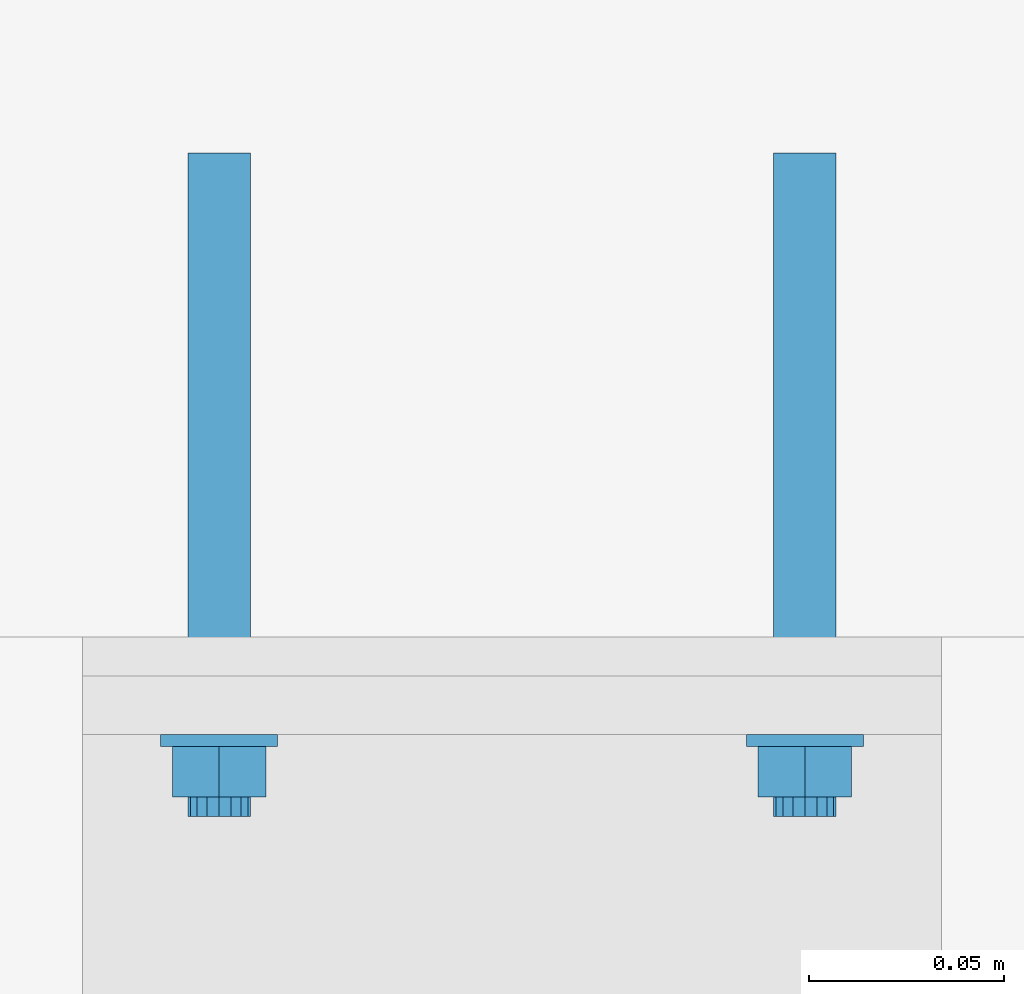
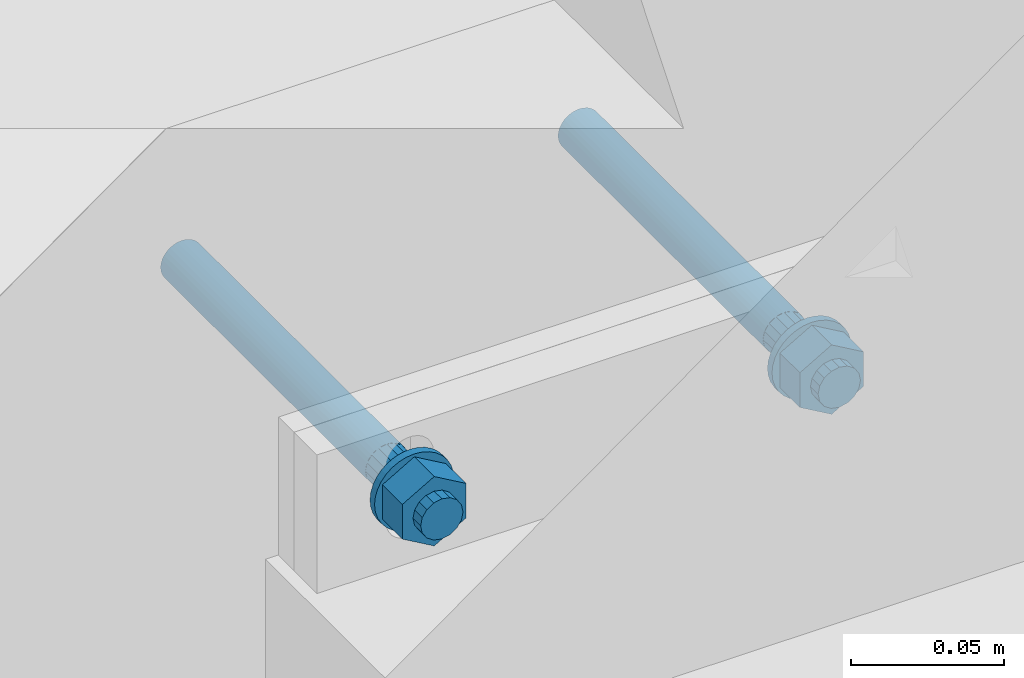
# One storey, part 36 of 145: 1 mechanical fastener.
"""IFC2X3 building model written with IfcOpenShell, lengths in millimetres."""

from ifc_helpers import new_model, entity, si_unit, converted_unit, origin_with_axes, place, context, project, spatial, faceted_brep, element, save


model = new_model("IFC2X3")

# Units and contexts
model_context = context("Model", 3, precision=1e-09, world=origin_with_axes())
ifc_project = project(units=[si_unit("LENGTHUNIT", "METRE", prefix="MILLI"), si_unit("AREAUNIT", "SQUARE_METRE"), si_unit("VOLUMEUNIT", "CUBIC_METRE"), converted_unit("PLANEANGLEUNIT", "DEGREE", entity("IfcPlaneAngleMeasure", 0.01745329), si_unit("PLANEANGLEUNIT", "RADIAN"), dimensions=[0, 0, 0, 0, 0, 0, 0])], contexts=[model_context])

# Site, building, storey
site_placement = place(None, origin_with_axes())
site = spatial("IfcSite", under=ifc_project, at=site_placement, Name="BZ1 Grund- und Mittelschule 85716 Unterschlei?heim", CompositionType="ELEMENT")
building_placement = place(site_placement, origin_with_axes())
building = spatial("IfcBuilding", under=site, at=building_placement, Name="Struktur 1", CompositionType="ELEMENT")
storey_placement = place(building_placement, origin_with_axes())
storey = spatial("IfcBuildingStorey", under=building, at=storey_placement, Name="Default Storey", CompositionType="ELEMENT", Elevation=0.0)

# Mechanical fastener
mechanical_fastener_placement = place(None, origin_with_axes())
element("IfcMechanicalFastener", 1, at=mechanical_fastener_placement, inside=storey, ObjectType="-", NominalDiameter=16.0, NominalLength=170.0, context=model_context, shape_type="Brep", body=[
    faceted_brep([(17130.84472732, -28.0, 3094.9990004), (17130.84472732, -25.0, 3094.9990004), (17131.132948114, -25.0, 3092.07264557), (17131.132948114, -28.0, 3092.07264557), (17131.986534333, -25.0, 3089.258748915), (17131.986534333, -28.0, 3089.258748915), (17133.372683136, -25.0, 3086.665446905), (17133.372683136, -28.0, 3086.665446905), (17135.238125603, -25.0, 3084.392398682), (17135.238125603, -28.0, 3084.392398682), (17137.511173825, -25.0, 3082.526956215), (17137.511173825, -28.0, 3082.526956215), (17140.104475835, -25.0, 3081.140807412), (17140.104475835, -28.0, 3081.140807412), (17142.91837249, -25.0, 3080.287221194), (17142.91837249, -28.0, 3080.287221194), (17145.84472732, -25.0, 3079.9990004), (17145.84472732, -28.0, 3079.9990004), (17148.771082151, -25.0, 3080.287221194), (17148.771082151, -28.0, 3080.287221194), (17151.584978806, -25.0, 3081.140807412), (17151.584978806, -28.0, 3081.140807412), (17154.178280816, -25.0, 3082.526956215), (17154.178280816, -28.0, 3082.526956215), (17156.451329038, -25.0, 3084.392398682), (17156.451329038, -28.0, 3084.392398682), (17158.316771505, -25.0, 3086.665446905), (17158.316771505, -28.0, 3086.665446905), (17159.702920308, -25.0, 3089.258748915), (17159.702920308, -28.0, 3089.258748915), (17160.556506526, -25.0, 3092.07264557), (17160.556506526, -28.0, 3092.07264557), (17160.84472732, -25.0, 3094.9990004), (17160.84472732, -28.0, 3094.9990004), (17160.556506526, -25.0, 3097.92535523), (17160.556506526, -28.0, 3097.92535523), (17159.702920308, -25.0, 3100.739251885), (17159.702920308, -28.0, 3100.739251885), (17158.316771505, -25.0, 3103.332553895), (17158.316771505, -28.0, 3103.332553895), (17156.451329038, -25.0, 3105.605602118), (17156.451329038, -28.0, 3105.605602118), (17154.178280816, -25.0, 3107.471044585), (17154.178280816, -28.0, 3107.471044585), (17151.584978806, -25.0, 3108.857193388), (17151.584978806, -28.0, 3108.857193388), (17148.771082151, -25.0, 3109.710779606), (17148.771082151, -28.0, 3109.710779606), (17145.84472732, -25.0, 3109.9990004), (17145.84472732, -28.0, 3109.9990004), (17142.91837249, -25.0, 3109.710779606), (17142.91837249, -28.0, 3109.710779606), (17140.104475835, -25.0, 3108.857193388), (17140.104475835, -28.0, 3108.857193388), (17137.511173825, -25.0, 3107.471044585), (17137.511173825, -28.0, 3107.471044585), (17135.238125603, -25.0, 3105.605602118), (17135.238125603, -28.0, 3105.605602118), (17133.372683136, -25.0, 3103.332553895), (17133.372683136, -28.0, 3103.332553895), (17131.986534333, -25.0, 3100.739251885), (17131.986534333, -28.0, 3100.739251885), (17131.132948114, -25.0, 3097.92535523), (17131.132948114, -28.0, 3097.92535523)], [[[0, 1, 2, 3]], [[3, 2, 4, 5]], [[5, 4, 6, 7]], [[7, 6, 8, 9]], [[9, 8, 10, 11]], [[11, 10, 12, 13]], [[13, 12, 14, 15]], [[15, 14, 16, 17]], [[17, 16, 18, 19]], [[19, 18, 20, 21]], [[21, 20, 22, 23]], [[23, 22, 24, 25]], [[25, 24, 26, 27]], [[27, 26, 28, 29]], [[29, 28, 30, 31]], [[31, 30, 32, 33]], [[33, 32, 34, 35]], [[35, 34, 36, 37]], [[37, 36, 38, 39]], [[39, 38, 40, 41]], [[41, 40, 42, 43]], [[43, 42, 44, 45]], [[45, 44, 46, 47]], [[47, 46, 48, 49]], [[49, 48, 50, 51]], [[51, 50, 52, 53]], [[53, 52, 54, 55]], [[55, 54, 56, 57]], [[57, 56, 58, 59]], [[59, 58, 60, 61]], [[61, 60, 62, 63]], [[63, 62, 1, 0]], [[0, 3, 5, 7, 9, 11, 13, 15, 17, 19, 21, 23, 25, 27, 29, 31, 33, 35, 37, 39, 41, 43, 45, 47, 49, 51, 53, 55, 57, 59, 61, 63]], [[1, 62, 60, 58, 56, 54, 52, 50, 48, 46, 44, 42, 40, 38, 36, 34, 32, 30, 28, 26, 24, 22, 20, 18, 16, 14, 12, 10, 8, 6, 4, 2]]]),
    faceted_brep([(16980.84472732, -28.0, 3094.9990004), (16980.84472732, -25.0, 3094.9990004), (16981.132948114, -25.0, 3092.07264557), (16981.132948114, -28.0, 3092.07264557), (16981.986534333, -25.0, 3089.258748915), (16981.986534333, -28.0, 3089.258748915), (16983.372683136, -25.0, 3086.665446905), (16983.372683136, -28.0, 3086.665446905), (16985.238125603, -25.0, 3084.392398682), (16985.238125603, -28.0, 3084.392398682), (16987.511173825, -25.0, 3082.526956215), (16987.511173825, -28.0, 3082.526956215), (16990.104475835, -25.0, 3081.140807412), (16990.104475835, -28.0, 3081.140807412), (16992.91837249, -25.0, 3080.287221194), (16992.91837249, -28.0, 3080.287221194), (16995.84472732, -25.0, 3079.9990004), (16995.84472732, -28.0, 3079.9990004), (16998.771082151, -25.0, 3080.287221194), (16998.771082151, -28.0, 3080.287221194), (17001.584978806, -25.0, 3081.140807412), (17001.584978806, -28.0, 3081.140807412), (17004.178280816, -25.0, 3082.526956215), (17004.178280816, -28.0, 3082.526956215), (17006.451329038, -25.0, 3084.392398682), (17006.451329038, -28.0, 3084.392398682), (17008.316771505, -25.0, 3086.665446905), (17008.316771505, -28.0, 3086.665446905), (17009.702920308, -25.0, 3089.258748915), (17009.702920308, -28.0, 3089.258748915), (17010.556506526, -25.0, 3092.07264557), (17010.556506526, -28.0, 3092.07264557), (17010.84472732, -25.0, 3094.9990004), (17010.84472732, -28.0, 3094.9990004), (17010.556506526, -25.0, 3097.92535523), (17010.556506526, -28.0, 3097.92535523), (17009.702920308, -25.0, 3100.739251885), (17009.702920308, -28.0, 3100.739251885), (17008.316771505, -25.0, 3103.332553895), (17008.316771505, -28.0, 3103.332553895), (17006.451329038, -25.0, 3105.605602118), (17006.451329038, -28.0, 3105.605602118), (17004.178280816, -25.0, 3107.471044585), (17004.178280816, -28.0, 3107.471044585), (17001.584978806, -25.0, 3108.857193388), (17001.584978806, -28.0, 3108.857193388), (16998.771082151, -25.0, 3109.710779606), (16998.771082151, -28.0, 3109.710779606), (16995.84472732, -25.0, 3109.9990004), (16995.84472732, -28.0, 3109.9990004), (16992.91837249, -25.0, 3109.710779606), (16992.91837249, -28.0, 3109.710779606), (16990.104475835, -25.0, 3108.857193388), (16990.104475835, -28.0, 3108.857193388), (16987.511173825, -25.0, 3107.471044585), (16987.511173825, -28.0, 3107.471044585), (16985.238125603, -25.0, 3105.605602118), (16985.238125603, -28.0, 3105.605602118), (16983.372683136, -25.0, 3103.332553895), (16983.372683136, -28.0, 3103.332553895), (16981.986534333, -25.0, 3100.739251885), (16981.986534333, -28.0, 3100.739251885), (16981.132948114, -25.0, 3097.92535523), (16981.132948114, -28.0, 3097.92535523)], [[[0, 1, 2, 3]], [[3, 2, 4, 5]], [[5, 4, 6, 7]], [[7, 6, 8, 9]], [[9, 8, 10, 11]], [[11, 10, 12, 13]], [[13, 12, 14, 15]], [[15, 14, 16, 17]], [[17, 16, 18, 19]], [[19, 18, 20, 21]], [[21, 20, 22, 23]], [[23, 22, 24, 25]], [[25, 24, 26, 27]], [[27, 26, 28, 29]], [[29, 28, 30, 31]], [[31, 30, 32, 33]], [[33, 32, 34, 35]], [[35, 34, 36, 37]], [[37, 36, 38, 39]], [[39, 38, 40, 41]], [[41, 40, 42, 43]], [[43, 42, 44, 45]], [[45, 44, 46, 47]], [[47, 46, 48, 49]], [[49, 48, 50, 51]], [[51, 50, 52, 53]], [[53, 52, 54, 55]], [[55, 54, 56, 57]], [[57, 56, 58, 59]], [[59, 58, 60, 61]], [[61, 60, 62, 63]], [[63, 62, 1, 0]], [[0, 3, 5, 7, 9, 11, 13, 15, 17, 19, 21, 23, 25, 27, 29, 31, 33, 35, 37, 39, 41, 43, 45, 47, 49, 51, 53, 55, 57, 59, 61, 63]], [[1, 62, 60, 58, 56, 54, 52, 50, 48, 46, 44, 42, 40, 38, 36, 34, 32, 30, 28, 26, 24, 22, 20, 18, 16, 14, 12, 10, 8, 6, 4, 2]]]),
    faceted_brep([(17157.839179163, -28.0, 3088.0740004), (17157.839179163, -41.0, 3088.0740004), (17145.84472732, -41.0, 3081.1490004), (17145.84472732, -28.0, 3081.1490004), (17133.850275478, -41.0, 3088.0740004), (17133.850275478, -28.0, 3088.0740004), (17133.850275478, -41.0, 3101.9240004), (17133.850275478, -28.0, 3101.9240004), (17145.84472732, -41.0, 3108.8490004), (17145.84472732, -28.0, 3108.8490004), (17157.839179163, -41.0, 3101.9240004), (17157.839179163, -28.0, 3101.9240004)], [[[0, 1, 2, 3]], [[3, 2, 4, 5]], [[5, 4, 6, 7]], [[7, 6, 8, 9]], [[9, 8, 10, 11]], [[11, 10, 1, 0]], [[4, 2, 1, 10, 8, 6]], [[0, 3, 5, 7, 9, 11]]]),
    faceted_brep([(17007.839179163, -28.0, 3088.0740004), (17007.839179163, -41.0, 3088.0740004), (16995.84472732, -41.0, 3081.1490004), (16995.84472732, -28.0, 3081.1490004), (16983.850275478, -41.0, 3088.0740004), (16983.850275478, -28.0, 3088.0740004), (16983.850275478, -41.0, 3101.9240004), (16983.850275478, -28.0, 3101.9240004), (16995.84472732, -41.0, 3108.8490004), (16995.84472732, -28.0, 3108.8490004), (17007.839179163, -41.0, 3101.9240004), (17007.839179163, -28.0, 3101.9240004)], [[[0, 1, 2, 3]], [[3, 2, 4, 5]], [[5, 4, 6, 7]], [[7, 6, 8, 9]], [[9, 8, 10, 11]], [[11, 10, 1, 0]], [[4, 2, 1, 10, 8, 6]], [[0, 3, 5, 7, 9, 11]]]),
    faceted_brep([(17137.84472732, -46.0, 3094.9990004), (17137.84472732, -41.0, 3094.9990004), (17138.45369106, -41.0, 3091.937532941), (17138.45369106, -46.0, 3091.937532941), (17140.187873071, -41.0, 3089.342146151), (17140.187873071, -46.0, 3089.342146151), (17142.783259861, -41.0, 3087.60796414), (17142.783259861, -46.0, 3087.60796414), (17145.84472732, -41.0, 3086.9990004), (17145.84472732, -46.0, 3086.9990004), (17148.906194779, -41.0, 3087.60796414), (17148.906194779, -46.0, 3087.60796414), (17151.50158157, -41.0, 3089.342146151), (17151.50158157, -46.0, 3089.342146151), (17153.23576358, -41.0, 3091.937532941), (17153.23576358, -46.0, 3091.937532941), (17153.84472732, -41.0, 3094.9990004), (17153.84472732, -46.0, 3094.9990004), (17153.23576358, -41.0, 3098.060467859), (17153.23576358, -46.0, 3098.060467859), (17151.50158157, -41.0, 3100.655854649), (17151.50158157, -46.0, 3100.655854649), (17148.906194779, -41.0, 3102.39003666), (17148.906194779, -46.0, 3102.39003666), (17145.84472732, -41.0, 3102.9990004), (17145.84472732, -46.0, 3102.9990004), (17142.783259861, -41.0, 3102.39003666), (17142.783259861, -46.0, 3102.39003666), (17140.187873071, -41.0, 3100.655854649), (17140.187873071, -46.0, 3100.655854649), (17138.45369106, -41.0, 3098.060467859), (17138.45369106, -46.0, 3098.060467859)], [[[0, 1, 2, 3]], [[3, 2, 4, 5]], [[5, 4, 6, 7]], [[7, 6, 8, 9]], [[9, 8, 10, 11]], [[11, 10, 12, 13]], [[13, 12, 14, 15]], [[15, 14, 16, 17]], [[17, 16, 18, 19]], [[19, 18, 20, 21]], [[21, 20, 22, 23]], [[23, 22, 24, 25]], [[25, 24, 26, 27]], [[27, 26, 28, 29]], [[29, 28, 30, 31]], [[31, 30, 1, 0]], [[0, 3, 5, 7, 9, 11, 13, 15, 17, 19, 21, 23, 25, 27, 29, 31]], [[1, 30, 28, 26, 24, 22, 20, 18, 16, 14, 12, 10, 8, 6, 4, 2]]]),
    faceted_brep([(16987.84472732, -46.0, 3094.9990004), (16987.84472732, -41.0, 3094.9990004), (16988.45369106, -41.0, 3091.937532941), (16988.45369106, -46.0, 3091.937532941), (16990.187873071, -41.0, 3089.342146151), (16990.187873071, -46.0, 3089.342146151), (16992.783259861, -41.0, 3087.60796414), (16992.783259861, -46.0, 3087.60796414), (16995.84472732, -41.0, 3086.9990004), (16995.84472732, -46.0, 3086.9990004), (16998.906194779, -41.0, 3087.60796414), (16998.906194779, -46.0, 3087.60796414), (17001.50158157, -41.0, 3089.342146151), (17001.50158157, -46.0, 3089.342146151), (17003.23576358, -41.0, 3091.937532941), (17003.23576358, -46.0, 3091.937532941), (17003.84472732, -41.0, 3094.9990004), (17003.84472732, -46.0, 3094.9990004), (17003.23576358, -41.0, 3098.060467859), (17003.23576358, -46.0, 3098.060467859), (17001.50158157, -41.0, 3100.655854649), (17001.50158157, -46.0, 3100.655854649), (16998.906194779, -41.0, 3102.39003666), (16998.906194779, -46.0, 3102.39003666), (16995.84472732, -41.0, 3102.9990004), (16995.84472732, -46.0, 3102.9990004), (16992.783259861, -41.0, 3102.39003666), (16992.783259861, -46.0, 3102.39003666), (16990.187873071, -41.0, 3100.655854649), (16990.187873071, -46.0, 3100.655854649), (16988.45369106, -41.0, 3098.060467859), (16988.45369106, -46.0, 3098.060467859)], [[[0, 1, 2, 3]], [[3, 2, 4, 5]], [[5, 4, 6, 7]], [[7, 6, 8, 9]], [[9, 8, 10, 11]], [[11, 10, 12, 13]], [[13, 12, 14, 15]], [[15, 14, 16, 17]], [[17, 16, 18, 19]], [[19, 18, 20, 21]], [[21, 20, 22, 23]], [[23, 22, 24, 25]], [[25, 24, 26, 27]], [[27, 26, 28, 29]], [[29, 28, 30, 31]], [[31, 30, 1, 0]], [[0, 3, 5, 7, 9, 11, 13, 15, 17, 19, 21, 23, 25, 27, 29, 31]], [[1, 30, 28, 26, 24, 22, 20, 18, 16, 14, 12, 10, 8, 6, 4, 2]]]),
    faceted_brep([(17137.84472732, -25.0, 3094.9990004), (17137.84472732, -10.0, 3094.9990004), (17138.45369106, -10.0, 3091.937532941), (17138.45369106, -25.0, 3091.937532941), (17140.187873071, -10.0, 3089.342146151), (17140.187873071, -25.0, 3089.342146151), (17142.783259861, -10.0, 3087.60796414), (17142.783259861, -25.0, 3087.60796414), (17145.84472732, -10.0, 3086.9990004), (17145.84472732, -25.0, 3086.9990004), (17148.906194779, -10.0, 3087.60796414), (17148.906194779, -25.0, 3087.60796414), (17151.50158157, -10.0, 3089.342146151), (17151.50158157, -25.0, 3089.342146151), (17153.23576358, -10.0, 3091.937532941), (17153.23576358, -25.0, 3091.937532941), (17153.84472732, -10.0, 3094.9990004), (17153.84472732, -25.0, 3094.9990004), (17153.23576358, -10.0, 3098.060467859), (17153.23576358, -25.0, 3098.060467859), (17151.50158157, -10.0, 3100.655854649), (17151.50158157, -25.0, 3100.655854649), (17148.906194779, -10.0, 3102.39003666), (17148.906194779, -25.0, 3102.39003666), (17145.84472732, -10.0, 3102.9990004), (17145.84472732, -25.0, 3102.9990004), (17142.783259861, -10.0, 3102.39003666), (17142.783259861, -25.0, 3102.39003666), (17140.187873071, -10.0, 3100.655854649), (17140.187873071, -25.0, 3100.655854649), (17138.45369106, -10.0, 3098.060467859), (17138.45369106, -25.0, 3098.060467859)], [[[0, 1, 2, 3]], [[3, 2, 4, 5]], [[5, 4, 6, 7]], [[7, 6, 8, 9]], [[9, 8, 10, 11]], [[11, 10, 12, 13]], [[13, 12, 14, 15]], [[15, 14, 16, 17]], [[17, 16, 18, 19]], [[19, 18, 20, 21]], [[21, 20, 22, 23]], [[23, 22, 24, 25]], [[25, 24, 26, 27]], [[27, 26, 28, 29]], [[29, 28, 30, 31]], [[31, 30, 1, 0]], [[0, 3, 5, 7, 9, 11, 13, 15, 17, 19, 21, 23, 25, 27, 29, 31]], [[1, 30, 28, 26, 24, 22, 20, 18, 16, 14, 12, 10, 8, 6, 4, 2]]]),
    faceted_brep([(16987.84472732, -25.0, 3094.9990004), (16987.84472732, -10.0, 3094.9990004), (16988.45369106, -10.0, 3091.937532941), (16988.45369106, -25.0, 3091.937532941), (16990.187873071, -10.0, 3089.342146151), (16990.187873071, -25.0, 3089.342146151), (16992.783259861, -10.0, 3087.60796414), (16992.783259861, -25.0, 3087.60796414), (16995.84472732, -10.0, 3086.9990004), (16995.84472732, -25.0, 3086.9990004), (16998.906194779, -10.0, 3087.60796414), (16998.906194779, -25.0, 3087.60796414), (17001.50158157, -10.0, 3089.342146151), (17001.50158157, -25.0, 3089.342146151), (17003.23576358, -10.0, 3091.937532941), (17003.23576358, -25.0, 3091.937532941), (17003.84472732, -10.0, 3094.9990004), (17003.84472732, -25.0, 3094.9990004), (17003.23576358, -10.0, 3098.060467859), (17003.23576358, -25.0, 3098.060467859), (17001.50158157, -10.0, 3100.655854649), (17001.50158157, -25.0, 3100.655854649), (16998.906194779, -10.0, 3102.39003666), (16998.906194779, -25.0, 3102.39003666), (16995.84472732, -10.0, 3102.9990004), (16995.84472732, -25.0, 3102.9990004), (16992.783259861, -10.0, 3102.39003666), (16992.783259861, -25.0, 3102.39003666), (16990.187873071, -10.0, 3100.655854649), (16990.187873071, -25.0, 3100.655854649), (16988.45369106, -10.0, 3098.060467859), (16988.45369106, -25.0, 3098.060467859)], [[[0, 1, 2, 3]], [[3, 2, 4, 5]], [[5, 4, 6, 7]], [[7, 6, 8, 9]], [[9, 8, 10, 11]], [[11, 10, 12, 13]], [[13, 12, 14, 15]], [[15, 14, 16, 17]], [[17, 16, 18, 19]], [[19, 18, 20, 21]], [[21, 20, 22, 23]], [[23, 22, 24, 25]], [[25, 24, 26, 27]], [[27, 26, 28, 29]], [[29, 28, 30, 31]], [[31, 30, 1, 0]], [[0, 3, 5, 7, 9, 11, 13, 15, 17, 19, 21, 23, 25, 27, 29, 31]], [[1, 30, 28, 26, 24, 22, 20, 18, 16, 14, 12, 10, 8, 6, 4, 2]]]),
    faceted_brep([(17137.84472732, -10.0, 3094.9990004), (17137.84472732, 124.0, 3094.9990004), (17137.998445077, 124.0, 3093.438277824), (17137.998445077, -10.0, 3093.438277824), (17138.45369106, 124.0, 3091.937532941), (17138.45369106, -10.0, 3091.937532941), (17139.192970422, 124.0, 3090.554438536), (17139.192970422, -10.0, 3090.554438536), (17140.187873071, 124.0, 3089.342146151), (17140.187873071, -10.0, 3089.342146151), (17141.400165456, 124.0, 3088.347243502), (17141.400165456, -10.0, 3088.347243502), (17142.783259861, 124.0, 3087.60796414), (17142.783259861, -10.0, 3087.60796414), (17144.284004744, 124.0, 3087.152718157), (17144.284004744, -10.0, 3087.152718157), (17145.84472732, 124.0, 3086.9990004), (17145.84472732, -10.0, 3086.9990004), (17147.405449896, 124.0, 3087.152718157), (17147.405449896, -10.0, 3087.152718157), (17148.906194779, 124.0, 3087.60796414), (17148.906194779, -10.0, 3087.60796414), (17150.289289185, 124.0, 3088.347243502), (17150.289289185, -10.0, 3088.347243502), (17151.50158157, 124.0, 3089.342146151), (17151.50158157, -10.0, 3089.342146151), (17152.496484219, 124.0, 3090.554438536), (17152.496484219, -10.0, 3090.554438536), (17153.23576358, 124.0, 3091.937532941), (17153.23576358, -10.0, 3091.937532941), (17153.691009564, 124.0, 3093.438277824), (17153.691009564, -10.0, 3093.438277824), (17153.84472732, 124.0, 3094.9990004), (17153.84472732, -10.0, 3094.9990004), (17153.691009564, 124.0, 3096.559722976), (17153.691009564, -10.0, 3096.559722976), (17153.23576358, 124.0, 3098.060467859), (17153.23576358, -10.0, 3098.060467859), (17152.496484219, 124.0, 3099.443562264), (17152.496484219, -10.0, 3099.443562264), (17151.50158157, 124.0, 3100.655854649), (17151.50158157, -10.0, 3100.655854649), (17150.289289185, 124.0, 3101.650757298), (17150.289289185, -10.0, 3101.650757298), (17148.906194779, 124.0, 3102.39003666), (17148.906194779, -10.0, 3102.39003666), (17147.405449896, 124.0, 3102.845282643), (17147.405449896, -10.0, 3102.845282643), (17145.84472732, 124.0, 3102.9990004), (17145.84472732, -10.0, 3102.9990004), (17144.284004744, 124.0, 3102.845282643), (17144.284004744, -10.0, 3102.845282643), (17142.783259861, 124.0, 3102.39003666), (17142.783259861, -10.0, 3102.39003666), (17141.400165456, 124.0, 3101.650757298), (17141.400165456, -10.0, 3101.650757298), (17140.187873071, 124.0, 3100.655854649), (17140.187873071, -10.0, 3100.655854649), (17139.192970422, 124.0, 3099.443562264), (17139.192970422, -10.0, 3099.443562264), (17138.45369106, 124.0, 3098.060467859), (17138.45369106, -10.0, 3098.060467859), (17137.998445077, 124.0, 3096.559722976), (17137.998445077, -10.0, 3096.559722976)], [[[0, 1, 2, 3]], [[3, 2, 4, 5]], [[5, 4, 6, 7]], [[7, 6, 8, 9]], [[9, 8, 10, 11]], [[11, 10, 12, 13]], [[13, 12, 14, 15]], [[15, 14, 16, 17]], [[17, 16, 18, 19]], [[19, 18, 20, 21]], [[21, 20, 22, 23]], [[23, 22, 24, 25]], [[25, 24, 26, 27]], [[27, 26, 28, 29]], [[29, 28, 30, 31]], [[31, 30, 32, 33]], [[33, 32, 34, 35]], [[35, 34, 36, 37]], [[37, 36, 38, 39]], [[39, 38, 40, 41]], [[41, 40, 42, 43]], [[43, 42, 44, 45]], [[45, 44, 46, 47]], [[47, 46, 48, 49]], [[49, 48, 50, 51]], [[51, 50, 52, 53]], [[53, 52, 54, 55]], [[55, 54, 56, 57]], [[57, 56, 58, 59]], [[59, 58, 60, 61]], [[61, 60, 62, 63]], [[63, 62, 1, 0]], [[0, 3, 5, 7, 9, 11, 13, 15, 17, 19, 21, 23, 25, 27, 29, 31, 33, 35, 37, 39, 41, 43, 45, 47, 49, 51, 53, 55, 57, 59, 61, 63]], [[1, 62, 60, 58, 56, 54, 52, 50, 48, 46, 44, 42, 40, 38, 36, 34, 32, 30, 28, 26, 24, 22, 20, 18, 16, 14, 12, 10, 8, 6, 4, 2]]]),
    faceted_brep([(16987.84472732, -10.0, 3094.9990004), (16987.84472732, 124.0, 3094.9990004), (16987.998445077, 124.0, 3093.438277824), (16987.998445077, -10.0, 3093.438277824), (16988.45369106, 124.0, 3091.937532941), (16988.45369106, -10.0, 3091.937532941), (16989.192970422, 124.0, 3090.554438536), (16989.192970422, -10.0, 3090.554438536), (16990.187873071, 124.0, 3089.342146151), (16990.187873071, -10.0, 3089.342146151), (16991.400165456, 124.0, 3088.347243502), (16991.400165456, -10.0, 3088.347243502), (16992.783259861, 124.0, 3087.60796414), (16992.783259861, -10.0, 3087.60796414), (16994.284004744, 124.0, 3087.152718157), (16994.284004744, -10.0, 3087.152718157), (16995.84472732, 124.0, 3086.9990004), (16995.84472732, -10.0, 3086.9990004), (16997.405449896, 124.0, 3087.152718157), (16997.405449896, -10.0, 3087.152718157), (16998.906194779, 124.0, 3087.60796414), (16998.906194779, -10.0, 3087.60796414), (17000.289289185, 124.0, 3088.347243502), (17000.289289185, -10.0, 3088.347243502), (17001.50158157, 124.0, 3089.342146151), (17001.50158157, -10.0, 3089.342146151), (17002.496484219, 124.0, 3090.554438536), (17002.496484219, -10.0, 3090.554438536), (17003.23576358, 124.0, 3091.937532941), (17003.23576358, -10.0, 3091.937532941), (17003.691009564, 124.0, 3093.438277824), (17003.691009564, -10.0, 3093.438277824), (17003.84472732, 124.0, 3094.9990004), (17003.84472732, -10.0, 3094.9990004), (17003.691009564, 124.0, 3096.559722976), (17003.691009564, -10.0, 3096.559722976), (17003.23576358, 124.0, 3098.060467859), (17003.23576358, -10.0, 3098.060467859), (17002.496484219, 124.0, 3099.443562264), (17002.496484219, -10.0, 3099.443562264), (17001.50158157, 124.0, 3100.655854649), (17001.50158157, -10.0, 3100.655854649), (17000.289289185, 124.0, 3101.650757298), (17000.289289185, -10.0, 3101.650757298), (16998.906194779, 124.0, 3102.39003666), (16998.906194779, -10.0, 3102.39003666), (16997.405449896, 124.0, 3102.845282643), (16997.405449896, -10.0, 3102.845282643), (16995.84472732, 124.0, 3102.9990004), (16995.84472732, -10.0, 3102.9990004), (16994.284004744, 124.0, 3102.845282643), (16994.284004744, -10.0, 3102.845282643), (16992.783259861, 124.0, 3102.39003666), (16992.783259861, -10.0, 3102.39003666), (16991.400165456, 124.0, 3101.650757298), (16991.400165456, -10.0, 3101.650757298), (16990.187873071, 124.0, 3100.655854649), (16990.187873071, -10.0, 3100.655854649), (16989.192970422, 124.0, 3099.443562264), (16989.192970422, -10.0, 3099.443562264), (16988.45369106, 124.0, 3098.060467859), (16988.45369106, -10.0, 3098.060467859), (16987.998445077, 124.0, 3096.559722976), (16987.998445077, -10.0, 3096.559722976)], [[[0, 1, 2, 3]], [[3, 2, 4, 5]], [[5, 4, 6, 7]], [[7, 6, 8, 9]], [[9, 8, 10, 11]], [[11, 10, 12, 13]], [[13, 12, 14, 15]], [[15, 14, 16, 17]], [[17, 16, 18, 19]], [[19, 18, 20, 21]], [[21, 20, 22, 23]], [[23, 22, 24, 25]], [[25, 24, 26, 27]], [[27, 26, 28, 29]], [[29, 28, 30, 31]], [[31, 30, 32, 33]], [[33, 32, 34, 35]], [[35, 34, 36, 37]], [[37, 36, 38, 39]], [[39, 38, 40, 41]], [[41, 40, 42, 43]], [[43, 42, 44, 45]], [[45, 44, 46, 47]], [[47, 46, 48, 49]], [[49, 48, 50, 51]], [[51, 50, 52, 53]], [[53, 52, 54, 55]], [[55, 54, 56, 57]], [[57, 56, 58, 59]], [[59, 58, 60, 61]], [[61, 60, 62, 63]], [[63, 62, 1, 0]], [[0, 3, 5, 7, 9, 11, 13, 15, 17, 19, 21, 23, 25, 27, 29, 31, 33, 35, 37, 39, 41, 43, 45, 47, 49, 51, 53, 55, 57, 59, 61, 63]], [[1, 62, 60, 58, 56, 54, 52, 50, 48, 46, 44, 42, 40, 38, 36, 34, 32, 30, 28, 26, 24, 22, 20, 18, 16, 14, 12, 10, 8, 6, 4, 2]]]),
])

save(model, "model.ifc")
